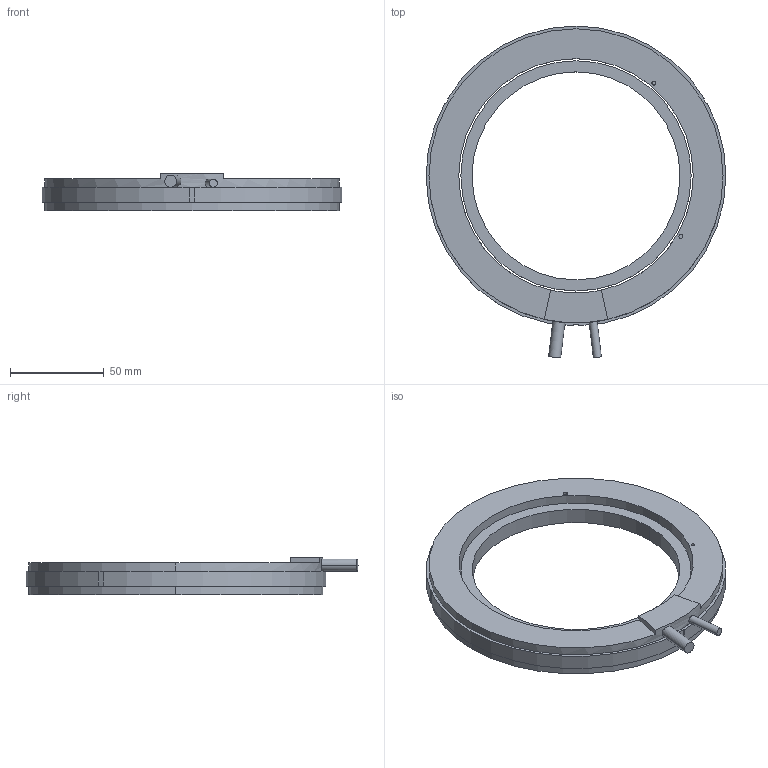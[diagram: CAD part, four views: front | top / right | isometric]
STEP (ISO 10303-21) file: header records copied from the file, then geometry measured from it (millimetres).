
FILE_DESCRIPTION (( 'STEP AP203' ), '1' );
FILE_NAME ('TM160-17 3D.STEP', '2024-01-12T03:00:13', ( '' ), ( '' ), 'SwSTEP 2.0', 'SolidWorks 2021', '' );
FILE_SCHEMA (( 'CONFIG_CONTROL_DESIGN' ));
Length unit declared in the file: millimetre
Products named in the file (1): TM160-17 3D
Bounding box: 160 x 177.21 x 20 mm (x, y, z)
Volume: 147258.8 mm3; surface area: 42427.8 mm2
Topology: 2 solids, 2 shells, 44 faces, 105 edges, 70 vertices
Faces by surface type: cylinder 22, plane 22
Entity records: 1492 total; most frequent: CARTESIAN_POINT 344, DIRECTION 235, ORIENTED_EDGE 210, EDGE_CURVE 105, AXIS2_PLACEMENT_3D 89, VERTEX_POINT 70, LINE 57, VECTOR 57
